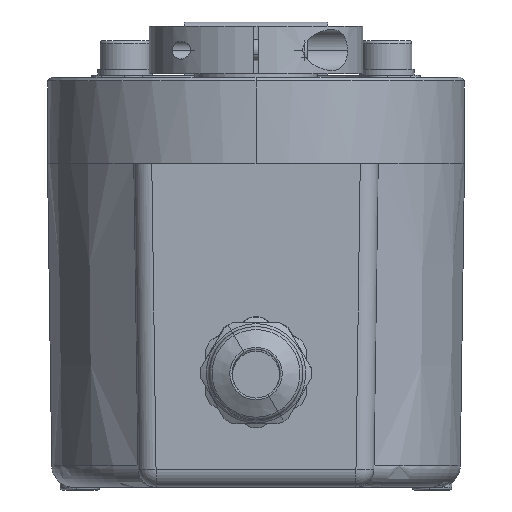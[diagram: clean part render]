
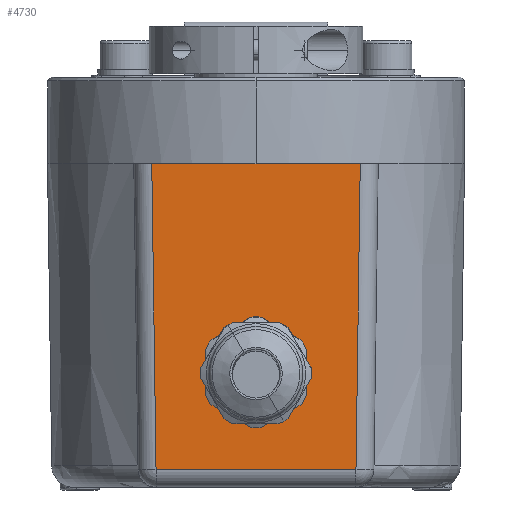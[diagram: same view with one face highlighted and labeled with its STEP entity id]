
A CAD part, front view. The second image highlights one B-rep face of the part: STEP entity #4730.
In plain terms, the highlighted planar face has unit normal (0, -1, -0.014).
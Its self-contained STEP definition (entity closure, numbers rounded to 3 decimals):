
#222 = LINE ( 'NONE', #6812, #12308 ) ;
#547 = ORIENTED_EDGE ( 'NONE', *, *, #584, .F. ) ;
#584 = EDGE_CURVE ( 'NONE', #9478, #4011, #3023, .T. ) ;
#606 = FACE_OUTER_BOUND ( 'NONE', #6788, .T. ) ;
#671 = DIRECTION ( 'NONE',  ( 0., -0.014, 1. ) ) ;
#799 = FACE_BOUND ( 'NONE', #978, .T. ) ;
#830 = VERTEX_POINT ( 'NONE', #7730 ) ;
#877 = CARTESIAN_POINT ( 'NONE',  ( 5.65, -28.595, 16. ) ) ;
#978 = EDGE_LOOP ( 'NONE', ( #10051, #3932 ) ) ;
#1220 = DIRECTION ( 'NONE',  ( 0.014, -0.014, 1. ) ) ;
#1303 = ORIENTED_EDGE ( 'NONE', *, *, #11612, .F. ) ;
#1617 = CARTESIAN_POINT ( 'NONE',  ( 5.65, -28.437, 4.7 ) ) ;
#1900 = CARTESIAN_POINT ( 'NONE',  ( 0., -29., 45. ) ) ;
#1947 = VERTEX_POINT ( 'NONE', #7113 ) ;
#2091 = DIRECTION ( 'NONE',  ( 1., 0., 0. ) ) ;
#2147 = VERTEX_POINT ( 'NONE', #4999 ) ;
#2542 = EDGE_CURVE ( 'NONE', #1947, #5530, #222, .T. ) ;
#3023 = LINE ( 'NONE', #10616, #3176 ) ;
#3176 = VECTOR ( 'NONE', #2091, 1000. ) ;
#3181 = LINE ( 'NONE', #7022, #10431 ) ;
#3344 = DIRECTION ( 'NONE',  ( 0., -1., -0.014 ) ) ;
#3626 = EDGE_CURVE ( 'NONE', #830, #9306, #3656, .T. ) ;
#3656 =( BOUNDED_CURVE ( )  B_SPLINE_CURVE ( 3, ( #9205, #10266, #1617, #5421 ),
 .UNSPECIFIED., .F., .T. ) 
 B_SPLINE_CURVE_WITH_KNOTS ( ( 4, 4 ),
 ( 1.571, 4.712 ),
 .UNSPECIFIED. ) 
 CURVE ( )  GEOMETRIC_REPRESENTATION_ITEM ( )  RATIONAL_B_SPLINE_CURVE ( ( 1., 0.333, 0.333, 1. ) ) 
 REPRESENTATION_ITEM ( '' )  );
#3771 = CARTESIAN_POINT ( 'NONE',  ( 14.5, -29., 45. ) ) ;
#3932 = ORIENTED_EDGE ( 'NONE', *, *, #3626, .F. ) ;
#4011 = VERTEX_POINT ( 'NONE', #1900 ) ;
#4104 = CARTESIAN_POINT ( 'NONE',  ( -5.65, -28.595, 16. ) ) ;
#4141 = DIRECTION ( 'NONE',  ( 1., 0., 0. ) ) ;
#4226 = DIRECTION ( 'NONE',  ( 1., 0., 0. ) ) ;
#4497 = VECTOR ( 'NONE', #6623, 1000. ) ;
#4730 = ADVANCED_FACE ( 'NONE', ( #799, #606 ), #8391, .T. ) ;
#4912 = LINE ( 'NONE', #4975, #9940 ) ;
#4975 = CARTESIAN_POINT ( 'NONE',  ( 17., -29., 45. ) ) ;
#4999 = CARTESIAN_POINT ( 'NONE',  ( -13.906, -28.406, 2.465 ) ) ;
#5001 = ORIENTED_EDGE ( 'NONE', *, *, #5217, .T. ) ;
#5217 = EDGE_CURVE ( 'NONE', #2147, #1947, #3181, .T. ) ;
#5421 = CARTESIAN_POINT ( 'NONE',  ( 5.65, -28.595, 16. ) ) ;
#5471 = LINE ( 'NONE', #11198, #4497 ) ;
#5530 = VERTEX_POINT ( 'NONE', #3771 ) ;
#5879 = EDGE_CURVE ( 'NONE', #9478, #2147, #5471, .T. ) ;
#6623 = DIRECTION ( 'NONE',  ( 0.014, 0.014, -1. ) ) ;
#6628 = EDGE_CURVE ( 'NONE', #9306, #830, #9663, .T. ) ;
#6788 = EDGE_LOOP ( 'NONE', ( #547, #11801, #5001, #11363, #1303 ) ) ;
#6812 = CARTESIAN_POINT ( 'NONE',  ( 14.501, -29., 45.035 ) ) ;
#7022 = CARTESIAN_POINT ( 'NONE',  ( 17., -28.406, 2.465 ) ) ;
#7113 = CARTESIAN_POINT ( 'NONE',  ( 13.906, -28.406, 2.465 ) ) ;
#7730 = CARTESIAN_POINT ( 'NONE',  ( -5.65, -28.595, 16. ) ) ;
#7901 = CARTESIAN_POINT ( 'NONE',  ( 5.65, -28.595, 16. ) ) ;
#7968 = CARTESIAN_POINT ( 'NONE',  ( -5.65, -28.753, 27.3 ) ) ;
#8391 = PLANE ( 'NONE',  #10831 ) ;
#9193 = CARTESIAN_POINT ( 'NONE',  ( 17., -29., 45. ) ) ;
#9205 = CARTESIAN_POINT ( 'NONE',  ( -5.65, -28.595, 16. ) ) ;
#9291 = CARTESIAN_POINT ( 'NONE',  ( -14.5, -29., 45. ) ) ;
#9306 = VERTEX_POINT ( 'NONE', #877 ) ;
#9478 = VERTEX_POINT ( 'NONE', #9291 ) ;
#9663 =( BOUNDED_CURVE ( )  B_SPLINE_CURVE ( 3, ( #7901, #11589, #7968, #4104 ),
 .UNSPECIFIED., .F., .T. ) 
 B_SPLINE_CURVE_WITH_KNOTS ( ( 4, 4 ),
 ( 4.712, 7.854 ),
 .UNSPECIFIED. ) 
 CURVE ( )  GEOMETRIC_REPRESENTATION_ITEM ( )  RATIONAL_B_SPLINE_CURVE ( ( 1., 0.333, 0.333, 1. ) ) 
 REPRESENTATION_ITEM ( '' )  );
#9940 = VECTOR ( 'NONE', #4141, 1000. ) ;
#10051 = ORIENTED_EDGE ( 'NONE', *, *, #6628, .F. ) ;
#10266 = CARTESIAN_POINT ( 'NONE',  ( -5.65, -28.437, 4.7 ) ) ;
#10431 = VECTOR ( 'NONE', #4226, 1000. ) ;
#10616 = CARTESIAN_POINT ( 'NONE',  ( 17., -29., 45. ) ) ;
#10831 = AXIS2_PLACEMENT_3D ( 'NONE', #9193, #3344, #671 ) ;
#11198 = CARTESIAN_POINT ( 'NONE',  ( -14.494, -28.994, 44.56 ) ) ;
#11363 = ORIENTED_EDGE ( 'NONE', *, *, #2542, .T. ) ;
#11589 = CARTESIAN_POINT ( 'NONE',  ( 5.65, -28.753, 27.3 ) ) ;
#11612 = EDGE_CURVE ( 'NONE', #4011, #5530, #4912, .T. ) ;
#11801 = ORIENTED_EDGE ( 'NONE', *, *, #5879, .T. ) ;
#12308 = VECTOR ( 'NONE', #1220, 1000. ) ;
